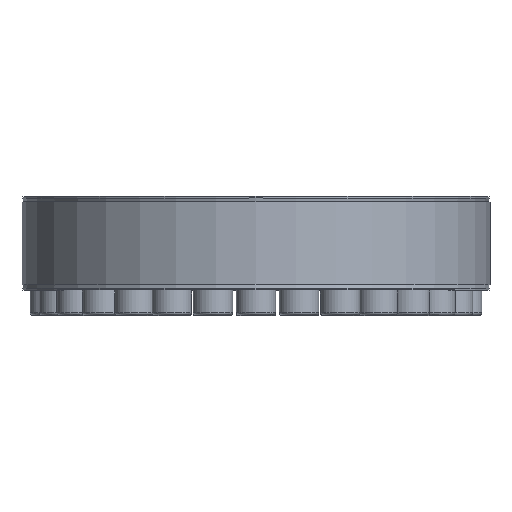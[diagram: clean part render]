
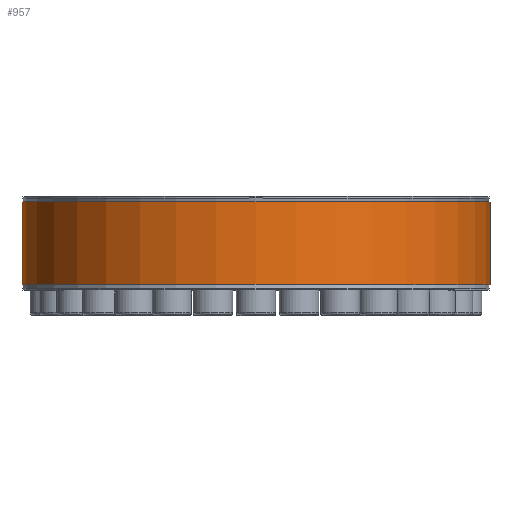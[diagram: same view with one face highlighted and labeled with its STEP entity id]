
A CAD part, top view. The second image highlights one B-rep face of the part: STEP entity #957.
In plain terms, the highlighted cylindrical face has radius 130 mm (diameter 260 mm), a partial arc.
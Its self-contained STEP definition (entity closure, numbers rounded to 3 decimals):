
#957 = ADVANCED_FACE( '', ( #1990 ), #1991, .T. );
#1990 = FACE_OUTER_BOUND( '', #4039, .T. );
#1991 = CYLINDRICAL_SURFACE( '', #4040, 130. );
#4039 = EDGE_LOOP( '', ( #6181, #6182, #6183, #6184 ) );
#4040 = AXIS2_PLACEMENT_3D( '', #6185, #6186, #6187 );
#6181 = ORIENTED_EDGE( '', *, *, #10892, .F. );
#6182 = ORIENTED_EDGE( '', *, *, #10893, .T. );
#6183 = ORIENTED_EDGE( '', *, *, #10894, .T. );
#6184 = ORIENTED_EDGE( '', *, *, #10895, .F. );
#6185 = CARTESIAN_POINT( '', ( 0., -60., 0. ) );
#6186 = DIRECTION( '', ( 0., -1., 0. ) );
#6187 = DIRECTION( '', ( 0., 0., 1. ) );
#10892 = EDGE_CURVE( '', #12173, #12174, #12175, .F. );
#10893 = EDGE_CURVE( '', #12173, #12176, #12177, .T. );
#10894 = EDGE_CURVE( '', #12176, #12178, #12179, .F. );
#10895 = EDGE_CURVE( '', #12174, #12178, #12180, .T. );
#12173 = VERTEX_POINT( '', #14097 );
#12174 = VERTEX_POINT( '', #14098 );
#12175 = LINE( '', #14099, #14100 );
#12176 = VERTEX_POINT( '', #14101 );
#12177 = CIRCLE( '', #14102, 130. );
#12178 = VERTEX_POINT( '', #14103 );
#12179 = LINE( '', #14104, #14105 );
#12180 = CIRCLE( '', #14106, 130. );
#14097 = CARTESIAN_POINT( '', ( 2.167, 23., -129.982 ) );
#14098 = CARTESIAN_POINT( '', ( 2.167, -23., -129.982 ) );
#14099 = CARTESIAN_POINT( '', ( 2.167, -60., -129.982 ) );
#14100 = VECTOR( '', #18108, 1000. );
#14101 = CARTESIAN_POINT( '', ( -2.167, 23., -129.982 ) );
#14102 = AXIS2_PLACEMENT_3D( '', #18109, #18110, #18111 );
#14103 = CARTESIAN_POINT( '', ( -2.167, -23., -129.982 ) );
#14104 = CARTESIAN_POINT( '', ( -2.167, -60., -129.982 ) );
#14105 = VECTOR( '', #18112, 1000. );
#14106 = AXIS2_PLACEMENT_3D( '', #18113, #18114, #18115 );
#18108 = DIRECTION( '', ( 0., 1., 0. ) );
#18109 = CARTESIAN_POINT( '', ( 0., 23., 0. ) );
#18110 = DIRECTION( '', ( 0., -1., 0. ) );
#18111 = DIRECTION( '', ( 0., 0., -1. ) );
#18112 = DIRECTION( '', ( 0., 1., 0. ) );
#18113 = CARTESIAN_POINT( '', ( 0., -23., 0. ) );
#18114 = DIRECTION( '', ( 0., -1., 0. ) );
#18115 = DIRECTION( '', ( 0., 0., -1. ) );
